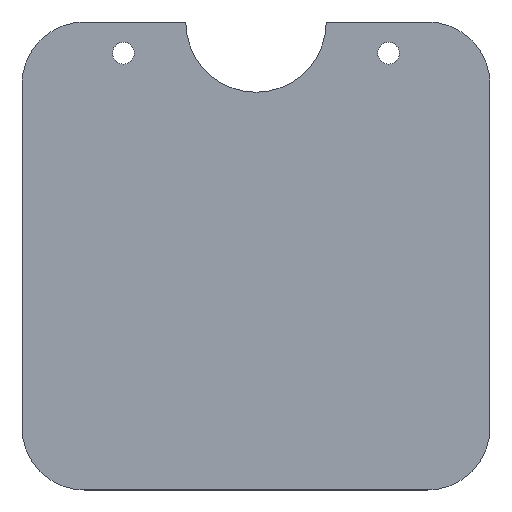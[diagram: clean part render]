
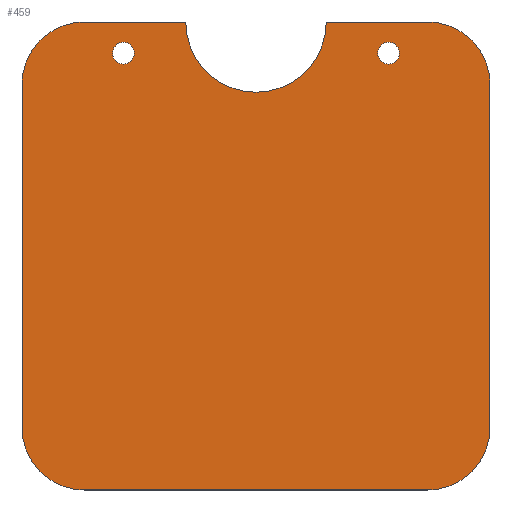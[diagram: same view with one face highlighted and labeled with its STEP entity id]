
A CAD part, top view. The second image highlights one B-rep face of the part: STEP entity #459.
In plain terms, the highlighted planar face has unit normal (0, 0, 1).
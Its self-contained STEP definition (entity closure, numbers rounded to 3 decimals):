
#55=AXIS2_PLACEMENT_3D('Circle Axis2P3D',#53,#54,$) ;
#79=AXIS2_PLACEMENT_3D('Circle Axis2P3D',#77,#78,$) ;
#112=AXIS2_PLACEMENT_3D('Circle Axis2P3D',#110,#111,$) ;
#136=AXIS2_PLACEMENT_3D('Circle Axis2P3D',#134,#135,$) ;
#169=AXIS2_PLACEMENT_3D('Circle Axis2P3D',#167,#168,$) ;
#193=AXIS2_PLACEMENT_3D('Circle Axis2P3D',#191,#192,$) ;
#264=AXIS2_PLACEMENT_3D('Circle Axis2P3D',#262,#263,$) ;
#357=AXIS2_PLACEMENT_3D('Circle Axis2P3D',#355,#356,$) ;
#432=AXIS2_PLACEMENT_3D('Plane Axis2P3D',#429,#430,#431) ;
#436=AXIS2_PLACEMENT_3D('Circle Axis2P3D',#434,#435,$) ;
#50=CARTESIAN_POINT('Vertex',(29.,-10.,6.)) ;
#53=CARTESIAN_POINT('Axis2P3D Location',(32.5,-10.,6.)) ;
#57=CARTESIAN_POINT('Vertex',(36.,-10.,6.)) ;
#77=CARTESIAN_POINT('Axis2P3D Location',(32.5,-10.,6.)) ;
#107=CARTESIAN_POINT('Vertex',(114.,-10.,6.)) ;
#110=CARTESIAN_POINT('Axis2P3D Location',(117.5,-10.,6.)) ;
#114=CARTESIAN_POINT('Vertex',(121.,-10.,6.)) ;
#134=CARTESIAN_POINT('Axis2P3D Location',(117.5,-10.,6.)) ;
#164=CARTESIAN_POINT('Vertex',(52.5,0.,6.)) ;
#167=CARTESIAN_POINT('Axis2P3D Location',(75.,0.,6.)) ;
#171=CARTESIAN_POINT('Vertex',(97.5,0.,6.)) ;
#191=CARTESIAN_POINT('Axis2P3D Location',(20.,-130.,6.)) ;
#195=CARTESIAN_POINT('Vertex',(20.,-150.,6.)) ;
#197=CARTESIAN_POINT('Vertex',(0.,-130.,6.)) ;
#237=CARTESIAN_POINT('Vertex',(130.,-150.,6.)) ;
#240=CARTESIAN_POINT('Line Origine',(75.,-150.,6.)) ;
#262=CARTESIAN_POINT('Axis2P3D Location',(130.,-130.,6.)) ;
#266=CARTESIAN_POINT('Vertex',(150.,-130.,6.)) ;
#299=CARTESIAN_POINT('Vertex',(130.,0.,6.)) ;
#307=CARTESIAN_POINT('Line Origine',(113.75,0.,6.)) ;
#324=CARTESIAN_POINT('Line Origine',(150.,-75.,6.)) ;
#328=CARTESIAN_POINT('Vertex',(150.,-20.,6.)) ;
#355=CARTESIAN_POINT('Axis2P3D Location',(130.,-20.,6.)) ;
#378=CARTESIAN_POINT('Vertex',(20.,0.,6.)) ;
#381=CARTESIAN_POINT('Line Origine',(36.25,0.,6.)) ;
#410=CARTESIAN_POINT('Line Origine',(0.,-75.,6.)) ;
#414=CARTESIAN_POINT('Vertex',(0.,-20.,6.)) ;
#429=CARTESIAN_POINT('Axis2P3D Location',(0.,0.,6.)) ;
#434=CARTESIAN_POINT('Axis2P3D Location',(20.,-20.,6.)) ;
#54=DIRECTION('Axis2P3D Direction',(0.,0.,1.)) ;
#78=DIRECTION('Axis2P3D Direction',(0.,0.,1.)) ;
#111=DIRECTION('Axis2P3D Direction',(0.,0.,1.)) ;
#135=DIRECTION('Axis2P3D Direction',(0.,0.,1.)) ;
#168=DIRECTION('Axis2P3D Direction',(0.,0.,1.)) ;
#192=DIRECTION('Axis2P3D Direction',(0.,0.,1.)) ;
#241=DIRECTION('Vector Direction',(-1.,0.,0.)) ;
#263=DIRECTION('Axis2P3D Direction',(0.,0.,1.)) ;
#308=DIRECTION('Vector Direction',(1.,0.,0.)) ;
#325=DIRECTION('Vector Direction',(0.,1.,0.)) ;
#356=DIRECTION('Axis2P3D Direction',(0.,-0.,1.)) ;
#382=DIRECTION('Vector Direction',(1.,0.,0.)) ;
#411=DIRECTION('Vector Direction',(0.,-1.,0.)) ;
#430=DIRECTION('Axis2P3D Direction',(0.,0.,1.)) ;
#431=DIRECTION('Axis2P3D XDirection',(1.,0.,0.)) ;
#435=DIRECTION('Axis2P3D Direction',(0.,0.,1.)) ;
#242=VECTOR('Line Direction',#241,1.) ;
#309=VECTOR('Line Direction',#308,1.) ;
#326=VECTOR('Line Direction',#325,1.) ;
#383=VECTOR('Line Direction',#382,1.) ;
#412=VECTOR('Line Direction',#411,1.) ;
#440=ORIENTED_EDGE('',*,*,#416,.T.) ;
#441=ORIENTED_EDGE('',*,*,#199,.F.) ;
#442=ORIENTED_EDGE('',*,*,#244,.T.) ;
#443=ORIENTED_EDGE('',*,*,#268,.F.) ;
#444=ORIENTED_EDGE('',*,*,#330,.T.) ;
#445=ORIENTED_EDGE('',*,*,#359,.F.) ;
#446=ORIENTED_EDGE('',*,*,#311,.T.) ;
#447=ORIENTED_EDGE('',*,*,#173,.F.) ;
#448=ORIENTED_EDGE('',*,*,#385,.T.) ;
#449=ORIENTED_EDGE('',*,*,#438,.F.) ;
#452=ORIENTED_EDGE('',*,*,#81,.F.) ;
#453=ORIENTED_EDGE('',*,*,#59,.F.) ;
#456=ORIENTED_EDGE('',*,*,#138,.F.) ;
#457=ORIENTED_EDGE('',*,*,#116,.F.) ;
#454=FACE_BOUND('',#451,.T.) ;
#458=FACE_BOUND('',#455,.T.) ;
#459=ADVANCED_FACE('\X2\96F64EF651E04F554F53\X0\',(#450,#454,#458),#433,.T.) ;
#56=CIRCLE('generated circle',#55,3.5) ;
#80=CIRCLE('generated circle',#79,3.5) ;
#113=CIRCLE('generated circle',#112,3.5) ;
#137=CIRCLE('generated circle',#136,3.5) ;
#170=CIRCLE('generated circle',#169,22.5) ;
#194=CIRCLE('generated circle',#193,20.) ;
#265=CIRCLE('generated circle',#264,20.) ;
#358=CIRCLE('generated circle',#357,20.) ;
#437=CIRCLE('generated circle',#436,20.) ;
#59=EDGE_CURVE('',#51,#58,#56,.T.) ;
#81=EDGE_CURVE('',#58,#51,#80,.T.) ;
#116=EDGE_CURVE('',#108,#115,#113,.T.) ;
#138=EDGE_CURVE('',#115,#108,#137,.T.) ;
#173=EDGE_CURVE('',#165,#172,#170,.T.) ;
#199=EDGE_CURVE('',#196,#198,#194,.F.) ;
#244=EDGE_CURVE('',#196,#238,#243,.F.) ;
#268=EDGE_CURVE('',#267,#238,#265,.F.) ;
#311=EDGE_CURVE('',#300,#172,#310,.F.) ;
#330=EDGE_CURVE('',#267,#329,#327,.T.) ;
#359=EDGE_CURVE('',#300,#329,#358,.F.) ;
#385=EDGE_CURVE('',#165,#379,#384,.F.) ;
#416=EDGE_CURVE('',#415,#198,#413,.T.) ;
#438=EDGE_CURVE('',#415,#379,#437,.F.) ;
#439=EDGE_LOOP('',(#440,#441,#442,#443,#444,#445,#446,#447,#448,#449)) ;
#451=EDGE_LOOP('',(#452,#453)) ;
#455=EDGE_LOOP('',(#456,#457)) ;
#450=FACE_OUTER_BOUND('',#439,.T.) ;
#243=LINE('Line',#240,#242) ;
#310=LINE('Line',#307,#309) ;
#327=LINE('Line',#324,#326) ;
#384=LINE('Line',#381,#383) ;
#413=LINE('Line',#410,#412) ;
#433=PLANE('',#432) ;
#51=VERTEX_POINT('',#50) ;
#58=VERTEX_POINT('',#57) ;
#108=VERTEX_POINT('',#107) ;
#115=VERTEX_POINT('',#114) ;
#165=VERTEX_POINT('',#164) ;
#172=VERTEX_POINT('',#171) ;
#196=VERTEX_POINT('',#195) ;
#198=VERTEX_POINT('',#197) ;
#238=VERTEX_POINT('',#237) ;
#267=VERTEX_POINT('',#266) ;
#300=VERTEX_POINT('',#299) ;
#329=VERTEX_POINT('',#328) ;
#379=VERTEX_POINT('',#378) ;
#415=VERTEX_POINT('',#414) ;
